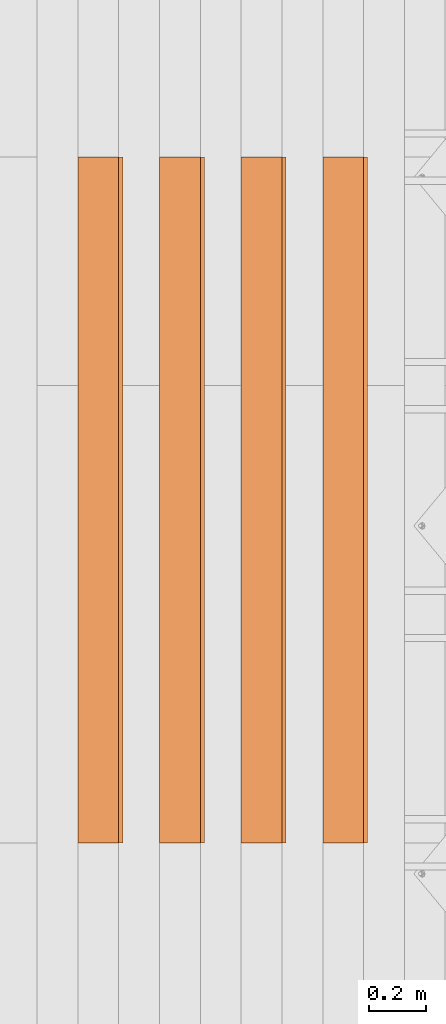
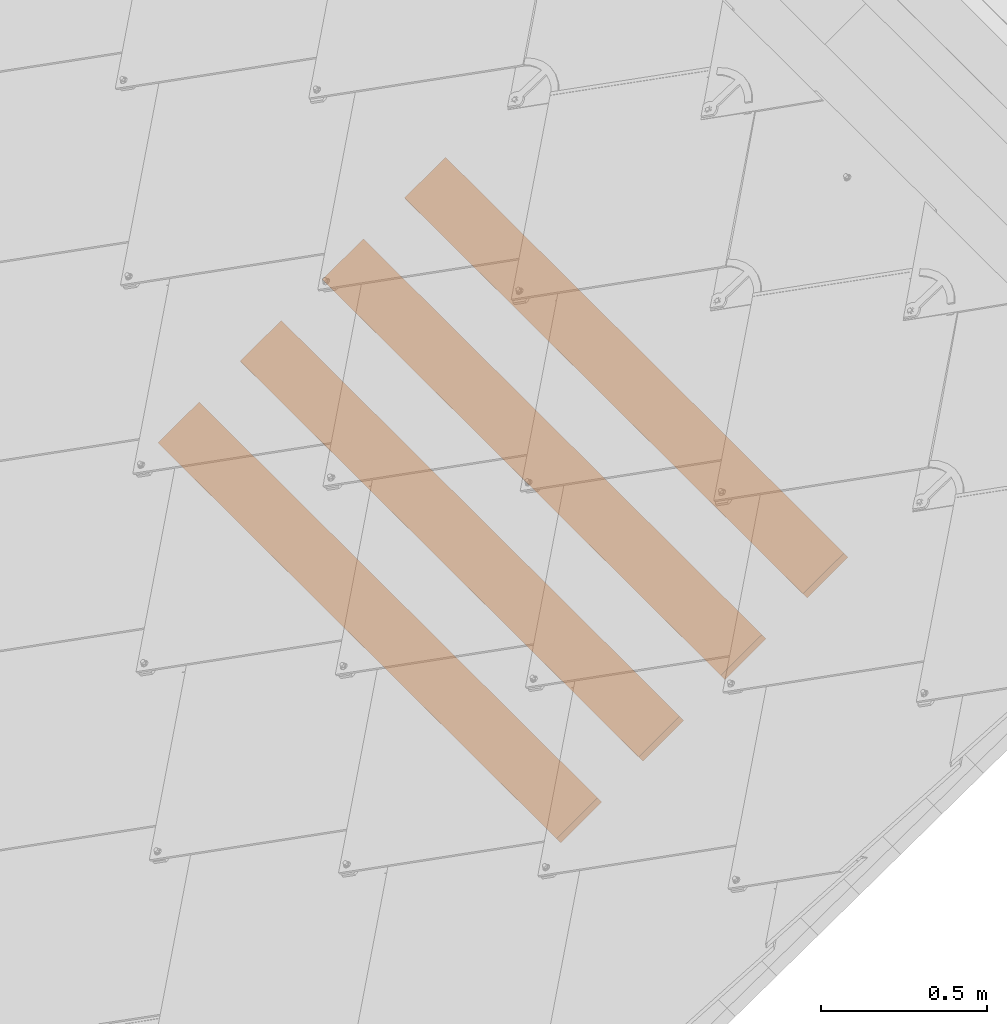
# One storey, part 30 of 133: 4 proxies, 1 element without a shape of its own.
"""IFC2X3 building model written with IfcOpenShell, lengths in millimetres."""

from ifc_helpers import new_model, entity, si_unit, converted_unit, derived_unit, direction, frame, frame_2d, origin, place, context, subcontext, project, spatial, rectangle, extrude, source, transform, mapped, material, type_object, type_shapes, element, aggregate, save


model = new_model("IFC2X3")

# Units and contexts
model_context = context("Model", 3, precision=0.01, world=origin(), true_north=direction((6.12303176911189e-17, 1.0)))
body_context = subcontext(model_context, "Body", "Model", "MODEL_VIEW")
ifc_project = project(units=[si_unit("LENGTHUNIT", "METRE", prefix="MILLI"), si_unit("AREAUNIT", "SQUARE_METRE"), si_unit("VOLUMEUNIT", "CUBIC_METRE"), converted_unit("PLANEANGLEUNIT", "DEGREE", entity("IfcRatioMeasure", 0.0174532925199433), si_unit("PLANEANGLEUNIT", "RADIAN"), dimensions=[0, 0, 0, 0, 0, 0, 0]), si_unit("MASSUNIT", "GRAM", prefix="KILO"), derived_unit("MASSDENSITYUNIT", [(si_unit("MASSUNIT", "GRAM", prefix="KILO"), 1), (si_unit("LENGTHUNIT", "METRE"), -3)]), si_unit("TIMEUNIT", "SECOND"), si_unit("FREQUENCYUNIT", "HERTZ"), si_unit("THERMODYNAMICTEMPERATUREUNIT", "DEGREE_CELSIUS"), derived_unit("THERMALTRANSMITTANCEUNIT", [(si_unit("MASSUNIT", "GRAM", prefix="KILO"), 1), (si_unit("THERMODYNAMICTEMPERATUREUNIT", "KELVIN"), -1), (si_unit("TIMEUNIT", "SECOND"), -3)]), derived_unit("VOLUMETRICFLOWRATEUNIT", [(si_unit("LENGTHUNIT", "METRE"), 3), (si_unit("TIMEUNIT", "SECOND"), -1)]), si_unit("ELECTRICCURRENTUNIT", "AMPERE"), si_unit("ELECTRICVOLTAGEUNIT", "VOLT"), si_unit("POWERUNIT", "WATT"), si_unit("FORCEUNIT", "NEWTON", prefix="KILO"), si_unit("ILLUMINANCEUNIT", "LUX"), si_unit("LUMINOUSFLUXUNIT", "LUMEN"), si_unit("LUMINOUSINTENSITYUNIT", "CANDELA"), derived_unit("USERDEFINED", [(si_unit("MASSUNIT", "GRAM", prefix="KILO"), -1), (si_unit("LENGTHUNIT", "METRE"), -2), (si_unit("TIMEUNIT", "SECOND"), 3), (si_unit("LUMINOUSFLUXUNIT", "LUMEN"), 1)]), derived_unit("LINEARVELOCITYUNIT", [(si_unit("LENGTHUNIT", "METRE"), 1), (si_unit("TIMEUNIT", "SECOND"), -1)]), si_unit("PRESSUREUNIT", "PASCAL"), derived_unit("USERDEFINED", [(si_unit("LENGTHUNIT", "METRE"), -2), (si_unit("MASSUNIT", "GRAM", prefix="KILO"), 1), (si_unit("TIMEUNIT", "SECOND"), -2)])], contexts=[model_context])

# Site, building, storey
site_placement = place(None, origin())
site = spatial("IfcSite", under=ifc_project, at=site_placement, Name="Default", CompositionType="ELEMENT")
building_placement = place(site_placement, origin())
building = spatial("IfcBuilding", under=site, at=building_placement, CompositionType="ELEMENT")
storey_placement = place(building_placement, origin())
storey = spatial("IfcBuildingStorey", under=building, at=storey_placement, Name="Level 1", CompositionType="ELEMENT", Elevation=0.0)

# Assembly, proxies
assembly_placement = place(storey_placement, origin())
assembly = element("IfcElementAssembly", 1, at=assembly_placement, inside=storey, Name="Structural Framing Assembly:Roof Construction Assembly", ObjectType="Structural Framing Assembly:Roof Construction Assembly", AssemblyPlace="NOTDEFINED", PredefinedType="USERDEFINED")
ifc_material = material(Name="Wood - Generic - Wood For Showcase")
building_element_proxy_type_1 = type_object("IfcBuildingElementProxyType", Name="Structural Framing 15", PredefinedType="NOTDEFINED", material=ifc_material)
shared_shape_1 = source(origin(), body_context, "Body", "SweptSolid", [
    extrude(rectangle(XDim=24.9999999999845, YDim=174.344679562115, at=frame_2d((-1.77635683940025e-13, -4.54747350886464e-13), x_axis=(0.0, 1.0))), frame((1128.20180147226, 1525.55080214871, 2760.23940055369), z_axis=(0.0, 1.0, 0.0), x_axis=(-0.819152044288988, 0.0, -0.573576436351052)), (0.0, 0.0, 1.0), 2400.0),
])
type_shapes(building_element_proxy_type_1, [shared_shape_1])
proxy_1_placement = place(assembly_placement, frame((-1142.51840539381, -4870.0, -800.0)))
proxy_1 = element("IfcBuildingElementProxy", 2, at=proxy_1_placement, type_object=building_element_proxy_type_1, material=ifc_material, Name="Structural Framing 57:Structural Framing 15", ObjectType="Structural Framing 57:Structural Framing 15", context=body_context, shape_type="MappedRepresentation", body=[
    mapped(shared_shape_1, transform((0.0, 0.0, 0.0), scale=1.0)),
])
building_element_proxy_type_2 = type_object("IfcBuildingElementProxyType", Name="Structural Framing 15", PredefinedType="NOTDEFINED", material=ifc_material)
shared_shape_2 = source(origin(), body_context, "Body", "SweptSolid", [
    extrude(rectangle(XDim=24.9999999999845, YDim=174.344679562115, at=frame_2d((-1.77635683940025e-13, -4.54747350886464e-13), x_axis=(0.0, 1.0))), frame((1128.20180147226, 1525.55080214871, 2760.23940055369), z_axis=(0.0, 1.0, 0.0), x_axis=(-0.819152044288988, 0.0, -0.573576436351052)), (0.0, 0.0, 1.0), 2400.0),
])
type_shapes(building_element_proxy_type_2, [shared_shape_2])
proxy_2_placement = place(assembly_placement, frame((-1428.14800674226, -4870.0, -1000.0)))
proxy_2 = element("IfcBuildingElementProxy", 3, at=proxy_2_placement, type_object=building_element_proxy_type_2, material=ifc_material, Name="Structural Framing 67:Structural Framing 15", ObjectType="Structural Framing 67:Structural Framing 15", context=body_context, shape_type="MappedRepresentation", body=[
    mapped(shared_shape_2, transform((0.0, 0.0, 0.0), scale=1.0)),
])
building_element_proxy_type_3 = type_object("IfcBuildingElementProxyType", Name="Structural Framing 15", PredefinedType="NOTDEFINED", material=ifc_material)
shared_shape_3 = source(origin(), body_context, "Body", "SweptSolid", [
    extrude(rectangle(XDim=24.9999999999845, YDim=174.344679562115, at=frame_2d((-1.77635683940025e-13, -4.54747350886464e-13), x_axis=(0.0, 1.0))), frame((1128.20180147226, 1525.55080214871, 2760.23940055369), z_axis=(0.0, 1.0, 0.0), x_axis=(-0.819152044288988, 0.0, -0.573576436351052)), (0.0, 0.0, 1.0), 2400.0),
])
type_shapes(building_element_proxy_type_3, [shared_shape_3])
proxy_3_placement = place(assembly_placement, frame((-1713.77760809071, -4870.0, -1200.0)))
proxy_3 = element("IfcBuildingElementProxy", 4, at=proxy_3_placement, type_object=building_element_proxy_type_3, material=ifc_material, Name="Structural Framing 77:Structural Framing 15", ObjectType="Structural Framing 77:Structural Framing 15", context=body_context, shape_type="MappedRepresentation", body=[
    mapped(shared_shape_3, transform((0.0, 0.0, 0.0), scale=1.0)),
])
building_element_proxy_type_4 = type_object("IfcBuildingElementProxyType", Name="Structural Framing 15", PredefinedType="NOTDEFINED", material=ifc_material)
shared_shape_4 = source(origin(), body_context, "Body", "SweptSolid", [
    extrude(rectangle(XDim=24.9999999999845, YDim=174.344679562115, at=frame_2d((-1.77635683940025e-13, -4.54747350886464e-13), x_axis=(0.0, 1.0))), frame((1128.20180147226, 1525.55080214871, 2760.23940055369), z_axis=(0.0, 1.0, 0.0), x_axis=(-0.819152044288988, 0.0, -0.573576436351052)), (0.0, 0.0, 1.0), 2400.0),
])
type_shapes(building_element_proxy_type_4, [shared_shape_4])
proxy_4_placement = place(assembly_placement, frame((-1999.40720943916, -4870.0, -1400.0)))
proxy_4 = element("IfcBuildingElementProxy", 5, at=proxy_4_placement, type_object=building_element_proxy_type_4, material=ifc_material, Name="Structural Framing 87:Structural Framing 15", ObjectType="Structural Framing 87:Structural Framing 15", context=body_context, shape_type="MappedRepresentation", body=[
    mapped(shared_shape_4, transform((0.0, 0.0, 0.0), scale=1.0)),
])
aggregate(assembly, [proxy_1, proxy_2, proxy_3, proxy_4])

save(model, "model.ifc")
